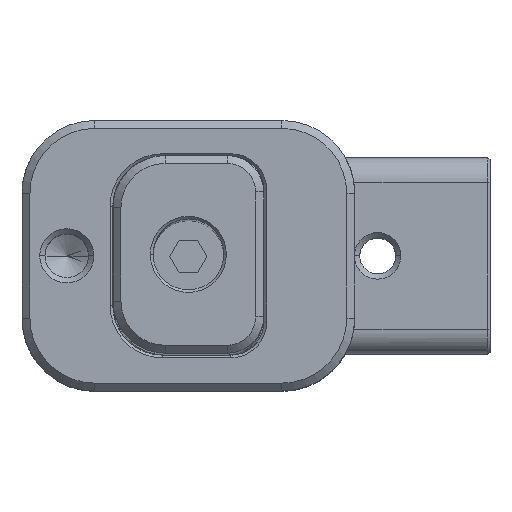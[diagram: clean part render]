
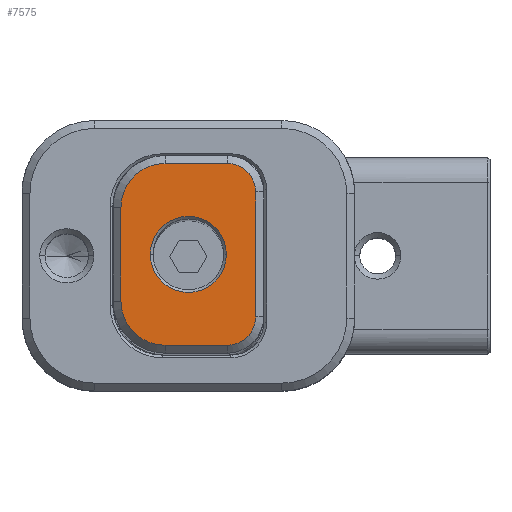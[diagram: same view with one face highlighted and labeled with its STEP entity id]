
A CAD part, top view. The second image highlights one B-rep face of the part: STEP entity #7575.
In plain terms, the highlighted planar face has unit normal (0, 0, 1).
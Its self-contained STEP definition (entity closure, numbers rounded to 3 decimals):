
#1511 = CARTESIAN_POINT ( 'NONE',  ( -7.239, 9.5, 0. ) ) ;
#1519 = PLANE ( 'NONE',  #8868 ) ;
#1520 = DIRECTION ( 'NONE',  ( 0., 0., -1. ) ) ;
#1521 = DIRECTION ( 'NONE',  ( -1., 0., 0. ) ) ;
#1980 = VERTEX_POINT ( 'NONE', #10569 ) ;
#1981 = VERTEX_POINT ( 'NONE', #5644 ) ;
#1982 = VERTEX_POINT ( 'NONE', #10565 ) ;
#1983 = VERTEX_POINT ( 'NONE', #5645 ) ;
#1984 = VERTEX_POINT ( 'NONE', #5643 ) ;
#2626 = EDGE_LOOP ( 'NONE', ( #5442, #5443 ) ) ;
#3653 = CARTESIAN_POINT ( 'NONE',  ( 3.739, 8.738, 0. ) ) ;
#4451 = CARTESIAN_POINT ( 'NONE',  ( 0., 0., 0. ) ) ;
#4455 = DIRECTION ( 'NONE',  ( 0., 0., -1. ) ) ;
#4456 = DIRECTION ( 'NONE',  ( -1., 0., 0. ) ) ;
#4532 = DIRECTION ( 'NONE',  ( -1., 0., 0. ) ) ;
#4556 = EDGE_LOOP ( 'NONE', ( #5444, #5445, #5446, #5447, #5448, #5449, #5450, #5451 ) ) ;
#5043 = CARTESIAN_POINT ( 'NONE',  ( 6.477, 6., 0. ) ) ;
#5044 = CARTESIAN_POINT ( 'NONE',  ( -2.239, 8.738, 0. ) ) ;
#5101 = CARTESIAN_POINT ( 'NONE',  ( -3.658, 0., 0. ) ) ;
#5102 = CARTESIAN_POINT ( 'NONE',  ( 3.658, 0., 0. ) ) ;
#5237 = VECTOR ( 'NONE', #5501, 1000. ) ;
#5238 = LINE ( 'NONE', #5500, #5237 ) ;
#5239 = CIRCLE ( 'NONE', #9060, 3.658 ) ;
#5244 = LINE ( 'NONE', #10487, #5245 ) ;
#5245 = VECTOR ( 'NONE', #10488, 1000. ) ;
#5246 = LINE ( 'NONE', #5496, #5250 ) ;
#5248 = CIRCLE ( 'NONE', #9063, 2.738 ) ;
#5249 = CIRCLE ( 'NONE', #9065, 4.238 ) ;
#5250 = VECTOR ( 'NONE', #5497, 1000. ) ;
#5251 = CIRCLE ( 'NONE', #9066, 4.238 ) ;
#5253 = CIRCLE ( 'NONE', #9068, 2.738 ) ;
#5442 = ORIENTED_EDGE ( 'NONE', *, *, #8197, .T. ) ;
#5443 = ORIENTED_EDGE ( 'NONE', *, *, #8259, .T. ) ;
#5444 = ORIENTED_EDGE ( 'NONE', *, *, #8264, .T. ) ;
#5445 = ORIENTED_EDGE ( 'NONE', *, *, #8263, .T. ) ;
#5446 = ORIENTED_EDGE ( 'NONE', *, *, #8265, .T. ) ;
#5447 = ORIENTED_EDGE ( 'NONE', *, *, #8255, .T. ) ;
#5448 = ORIENTED_EDGE ( 'NONE', *, *, #8266, .T. ) ;
#5449 = ORIENTED_EDGE ( 'NONE', *, *, #8267, .T. ) ;
#5450 = ORIENTED_EDGE ( 'NONE', *, *, #8268, .T. ) ;
#5451 = ORIENTED_EDGE ( 'NONE', *, *, #8269, .T. ) ;
#5491 = CARTESIAN_POINT ( 'NONE',  ( 3.739, -6., 0. ) ) ;
#5492 = DIRECTION ( 'NONE',  ( 0., 0., 1. ) ) ;
#5493 = DIRECTION ( 'NONE',  ( -1., 0., 0. ) ) ;
#5494 = DIRECTION ( 'NONE',  ( 0., 0., 1. ) ) ;
#5495 = DIRECTION ( 'NONE',  ( -1., 0., 0. ) ) ;
#5496 = CARTESIAN_POINT ( 'NONE',  ( 3.739, -8.738, 0. ) ) ;
#5497 = DIRECTION ( 'NONE',  ( 1., 0., 0. ) ) ;
#5498 = DIRECTION ( 'NONE',  ( 0., 0., 1. ) ) ;
#5499 = DIRECTION ( 'NONE',  ( -1., 0., 0. ) ) ;
#5500 = CARTESIAN_POINT ( 'NONE',  ( 6.477, 6., 0. ) ) ;
#5501 = DIRECTION ( 'NONE',  ( 0., 1., 0. ) ) ;
#5643 = CARTESIAN_POINT ( 'NONE',  ( 6.477, -6., 0. ) ) ;
#5644 = CARTESIAN_POINT ( 'NONE',  ( -6.477, -4.5, 0. ) ) ;
#5645 = CARTESIAN_POINT ( 'NONE',  ( 3.739, -8.738, 0. ) ) ;
#7575 = ADVANCED_FACE ( 'NONE', ( #9962, #9968 ), #1519, .F. ) ;
#8197 = EDGE_CURVE ( 'NONE', #9220, #9219, #8808, .T. ) ;
#8255 = EDGE_CURVE ( 'NONE', #1980, #1981, #10508, .T. ) ;
#8259 = EDGE_CURVE ( 'NONE', #9219, #9220, #5239, .T. ) ;
#8263 = EDGE_CURVE ( 'NONE', #10873, #10874, #5244, .T. ) ;
#8264 = EDGE_CURVE ( 'NONE', #10872, #10873, #5248, .T. ) ;
#8265 = EDGE_CURVE ( 'NONE', #10874, #1980, #5249, .T. ) ;
#8266 = EDGE_CURVE ( 'NONE', #1981, #1982, #5251, .T. ) ;
#8267 = EDGE_CURVE ( 'NONE', #1982, #1983, #5246, .T. ) ;
#8268 = EDGE_CURVE ( 'NONE', #1983, #1984, #5253, .T. ) ;
#8269 = EDGE_CURVE ( 'NONE', #1984, #10872, #5238, .T. ) ;
#8808 = CIRCLE ( 'NONE', #9051, 3.658 ) ;
#8868 = AXIS2_PLACEMENT_3D ( 'NONE', #1511, #1520, #1521 ) ;
#9051 = AXIS2_PLACEMENT_3D ( 'NONE', #4451, #4455, #4456 ) ;
#9060 = AXIS2_PLACEMENT_3D ( 'NONE', #10472, #10479, #10480 ) ;
#9063 = AXIS2_PLACEMENT_3D ( 'NONE', #10469, #10490, #4532 ) ;
#9065 = AXIS2_PLACEMENT_3D ( 'NONE', #10478, #5492, #5493 ) ;
#9066 = AXIS2_PLACEMENT_3D ( 'NONE', #10489, #5494, #5495 ) ;
#9068 = AXIS2_PLACEMENT_3D ( 'NONE', #5491, #5498, #5499 ) ;
#9219 = VERTEX_POINT ( 'NONE', #5101 ) ;
#9220 = VERTEX_POINT ( 'NONE', #5102 ) ;
#9962 = FACE_BOUND ( 'NONE', #2626, .T. ) ;
#9968 = FACE_OUTER_BOUND ( 'NONE', #4556, .T. ) ;
#10469 = CARTESIAN_POINT ( 'NONE',  ( 3.739, 6., 0. ) ) ;
#10470 = CARTESIAN_POINT ( 'NONE',  ( -6.477, -4.5, 0. ) ) ;
#10471 = DIRECTION ( 'NONE',  ( 0., -1., 0. ) ) ;
#10472 = CARTESIAN_POINT ( 'NONE',  ( 0., 0., 0. ) ) ;
#10478 = CARTESIAN_POINT ( 'NONE',  ( -2.239, 4.5, 0. ) ) ;
#10479 = DIRECTION ( 'NONE',  ( 0., 0., -1. ) ) ;
#10480 = DIRECTION ( 'NONE',  ( -1., 0., 0. ) ) ;
#10487 = CARTESIAN_POINT ( 'NONE',  ( -2.239, 8.738, 0. ) ) ;
#10488 = DIRECTION ( 'NONE',  ( -1., 0., 0. ) ) ;
#10489 = CARTESIAN_POINT ( 'NONE',  ( -2.239, -4.5, 0. ) ) ;
#10490 = DIRECTION ( 'NONE',  ( 0., 0., 1. ) ) ;
#10508 = LINE ( 'NONE', #10470, #10509 ) ;
#10509 = VECTOR ( 'NONE', #10471, 1000. ) ;
#10565 = CARTESIAN_POINT ( 'NONE',  ( -2.239, -8.738, 0. ) ) ;
#10569 = CARTESIAN_POINT ( 'NONE',  ( -6.477, 4.5, 0. ) ) ;
#10872 = VERTEX_POINT ( 'NONE', #5043 ) ;
#10873 = VERTEX_POINT ( 'NONE', #3653 ) ;
#10874 = VERTEX_POINT ( 'NONE', #5044 ) ;
